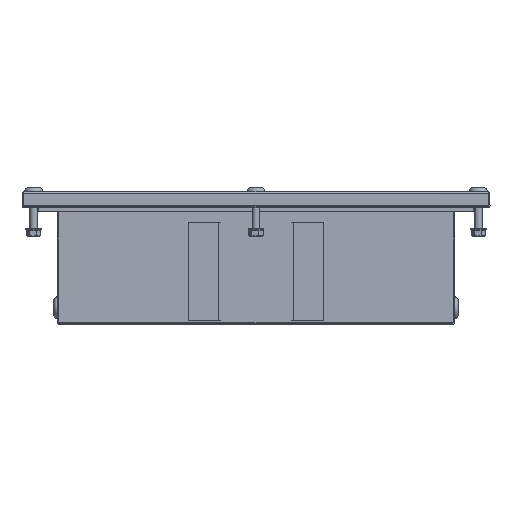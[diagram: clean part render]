
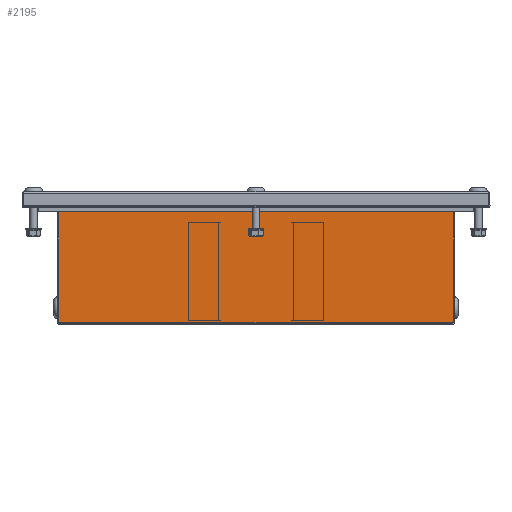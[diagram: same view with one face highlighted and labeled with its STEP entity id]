
A CAD part, front view. The second image highlights one B-rep face of the part: STEP entity #2195.
In plain terms, the highlighted planar face has unit normal (0, -1, 0).
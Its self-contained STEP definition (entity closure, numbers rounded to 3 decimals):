
#20 = VECTOR ( 'NONE', #9250, 1000. ) ;
#28 = CARTESIAN_POINT ( 'NONE',  ( -160.429, -556., 0.5 ) ) ;
#381 = LINE ( 'NONE', #9038, #10725 ) ;
#866 = CARTESIAN_POINT ( 'NONE',  ( 159.793, -556., 105.5 ) ) ;
#945 = VECTOR ( 'NONE', #8742, 1000. ) ;
#1164 = EDGE_CURVE ( 'NONE', #12591, #9749, #3603, .T. ) ;
#1253 = VERTEX_POINT ( 'NONE', #8251 ) ;
#1257 = CARTESIAN_POINT ( 'NONE',  ( 0., -556., 0. ) ) ;
#1258 = VECTOR ( 'NONE', #12222, 1000. ) ;
#1283 = VECTOR ( 'NONE', #4499, 1000. ) ;
#1310 = CARTESIAN_POINT ( 'NONE',  ( 160.429, -556., 0.5 ) ) ;
#1444 = CARTESIAN_POINT ( 'NONE',  ( 160.429, -556., 0.5 ) ) ;
#1529 = ORIENTED_EDGE ( 'NONE', *, *, #8700, .T. ) ;
#1564 = LINE ( 'NONE', #2689, #945 ) ;
#1827 = EDGE_CURVE ( 'NONE', #7185, #10454, #9257, .T. ) ;
#1955 = EDGE_CURVE ( 'NONE', #5321, #1253, #3289, .T. ) ;
#2195 = ADVANCED_FACE ( 'NONE', ( #11752 ), #9278, .F. ) ;
#2642 = VECTOR ( 'NONE', #7439, 1000. ) ;
#2689 = CARTESIAN_POINT ( 'NONE',  ( -160.429, -556., 0.5 ) ) ;
#2730 = CARTESIAN_POINT ( 'NONE',  ( -159.793, -556., 0.5 ) ) ;
#2840 = LINE ( 'NONE', #12332, #8198 ) ;
#2843 = ORIENTED_EDGE ( 'NONE', *, *, #9508, .F. ) ;
#3018 = DIRECTION ( 'NONE',  ( -1., 0., 0. ) ) ;
#3230 = CARTESIAN_POINT ( 'NONE',  ( -160.429, -556., 105.5 ) ) ;
#3289 = LINE ( 'NONE', #1444, #2642 ) ;
#3303 = VECTOR ( 'NONE', #9816, 1000. ) ;
#3603 = LINE ( 'NONE', #8798, #3303 ) ;
#3611 = LINE ( 'NONE', #11524, #1283 ) ;
#3887 = CARTESIAN_POINT ( 'NONE',  ( 159.793, -556., 0.5 ) ) ;
#4499 = DIRECTION ( 'NONE',  ( -1., 0., 0. ) ) ;
#5321 = VERTEX_POINT ( 'NONE', #1310 ) ;
#5338 = LINE ( 'NONE', #3230, #20 ) ;
#5777 = EDGE_LOOP ( 'NONE', ( #12953, #6702, #10022, #9347, #2843, #1529, #8699, #11030 ) ) ;
#6239 = DIRECTION ( 'NONE',  ( 0., 1., 0. ) ) ;
#6558 = VERTEX_POINT ( 'NONE', #3887 ) ;
#6702 = ORIENTED_EDGE ( 'NONE', *, *, #11337, .F. ) ;
#7185 = VERTEX_POINT ( 'NONE', #2730 ) ;
#7439 = DIRECTION ( 'NONE',  ( 0., 0., 1. ) ) ;
#8155 = AXIS2_PLACEMENT_3D ( 'NONE', #1257, #6239, #10304 ) ;
#8198 = VECTOR ( 'NONE', #9308, 1000. ) ;
#8251 = CARTESIAN_POINT ( 'NONE',  ( 160.429, -556., 105.5 ) ) ;
#8699 = ORIENTED_EDGE ( 'NONE', *, *, #1955, .T. ) ;
#8700 = EDGE_CURVE ( 'NONE', #6558, #5321, #2840, .T. ) ;
#8742 = DIRECTION ( 'NONE',  ( 0., 0., 1. ) ) ;
#8798 = CARTESIAN_POINT ( 'NONE',  ( -159.793, -556., 105.5 ) ) ;
#9038 = CARTESIAN_POINT ( 'NONE',  ( 160.429, -556., 105.5 ) ) ;
#9196 = CARTESIAN_POINT ( 'NONE',  ( -159.793, -556., 0.5 ) ) ;
#9250 = DIRECTION ( 'NONE',  ( 1., 0., 0. ) ) ;
#9257 = LINE ( 'NONE', #9196, #1258 ) ;
#9278 = PLANE ( 'NONE',  #8155 ) ;
#9308 = DIRECTION ( 'NONE',  ( 1., 0., 0. ) ) ;
#9347 = ORIENTED_EDGE ( 'NONE', *, *, #1827, .F. ) ;
#9508 = EDGE_CURVE ( 'NONE', #6558, #7185, #3611, .T. ) ;
#9749 = VERTEX_POINT ( 'NONE', #866 ) ;
#9816 = DIRECTION ( 'NONE',  ( 1., 0., 0. ) ) ;
#9885 = CARTESIAN_POINT ( 'NONE',  ( -159.793, -556., 105.5 ) ) ;
#10022 = ORIENTED_EDGE ( 'NONE', *, *, #11835, .F. ) ;
#10304 = DIRECTION ( 'NONE',  ( 0., 0., 1. ) ) ;
#10454 = VERTEX_POINT ( 'NONE', #28 ) ;
#10725 = VECTOR ( 'NONE', #3018, 1000. ) ;
#11030 = ORIENTED_EDGE ( 'NONE', *, *, #12695, .T. ) ;
#11337 = EDGE_CURVE ( 'NONE', #11562, #12591, #5338, .T. ) ;
#11524 = CARTESIAN_POINT ( 'NONE',  ( 0., -556., 0.5 ) ) ;
#11562 = VERTEX_POINT ( 'NONE', #12411 ) ;
#11752 = FACE_OUTER_BOUND ( 'NONE', #5777, .T. ) ;
#11835 = EDGE_CURVE ( 'NONE', #10454, #11562, #1564, .T. ) ;
#12222 = DIRECTION ( 'NONE',  ( -1., 0., 0. ) ) ;
#12332 = CARTESIAN_POINT ( 'NONE',  ( 159.793, -556., 0.5 ) ) ;
#12411 = CARTESIAN_POINT ( 'NONE',  ( -160.429, -556., 105.5 ) ) ;
#12591 = VERTEX_POINT ( 'NONE', #9885 ) ;
#12695 = EDGE_CURVE ( 'NONE', #1253, #9749, #381, .T. ) ;
#12953 = ORIENTED_EDGE ( 'NONE', *, *, #1164, .F. ) ;
